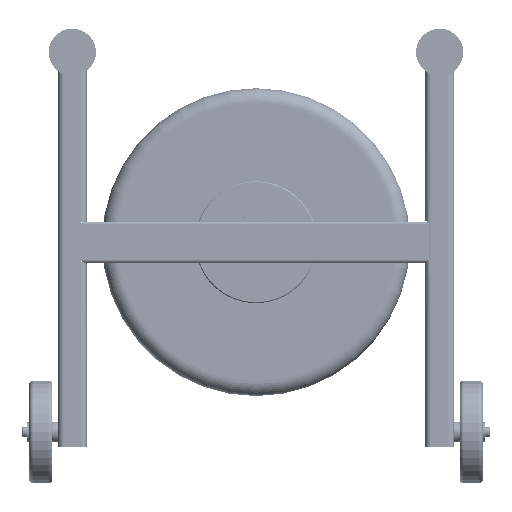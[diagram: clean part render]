
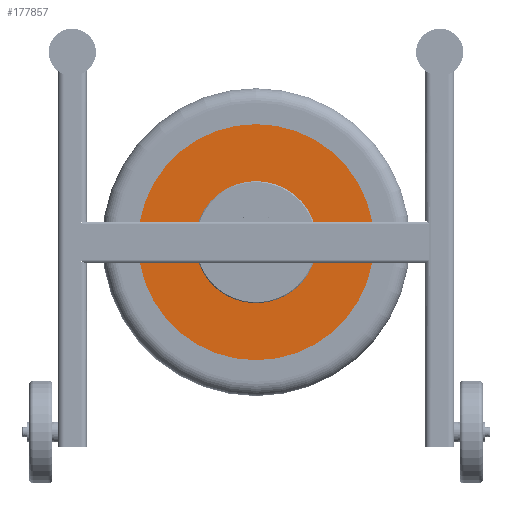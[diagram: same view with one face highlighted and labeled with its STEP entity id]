
A CAD part, front view. The second image highlights one B-rep face of the part: STEP entity #177857.
In plain terms, the highlighted planar face has unit normal (0, -1, 0) as drawn and (0, 1, 0) by its records, which use the part's own axes.
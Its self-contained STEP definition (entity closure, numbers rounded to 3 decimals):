
#177514=CARTESIAN_POINT('',(0.,21.,0.));
#177515=DIRECTION('',(0.,1.,0.));
#177516=DIRECTION('',(1.,0.,0.));
#177517=AXIS2_PLACEMENT_3D('',#177514,#177515,#177516);
#177519=CARTESIAN_POINT('',(0.,21.,0.));
#177520=DIRECTION('',(0.,-1.,0.));
#177521=DIRECTION('',(1.,0.,0.));
#177522=AXIS2_PLACEMENT_3D('',#177519,#177520,#177521);
#177528=CARTESIAN_POINT('',(0.,21.,0.));
#177529=DIRECTION('',(0.,-1.,0.));
#177530=DIRECTION('',(1.,0.,0.));
#177531=AXIS2_PLACEMENT_3D('',#177528,#177529,#177530);
#177537=CARTESIAN_POINT('',(0.,21.,0.));
#177538=DIRECTION('',(0.,1.,0.));
#177539=DIRECTION('',(1.,0.,0.));
#177540=AXIS2_PLACEMENT_3D('',#177537,#177538,#177539);
#177602=CARTESIAN_POINT('',(38.,21.,0.));
#177603=CARTESIAN_POINT('',(-38.,21.,0.));
#177604=VERTEX_POINT('',#177602);
#177605=VERTEX_POINT('',#177603);
#177606=CARTESIAN_POINT('',(115.,21.,0.));
#177607=CARTESIAN_POINT('',(-115.,21.,0.));
#177608=VERTEX_POINT('',#177606);
#177609=VERTEX_POINT('',#177607);
#177842=CARTESIAN_POINT('',(0.,21.,0.));
#177843=DIRECTION('',(0.,1.,0.));
#177844=DIRECTION('',(1.,0.,0.));
#177845=AXIS2_PLACEMENT_3D('',#177842,#177843,#177844);
#177846=PLANE('',#177845);
#177848=ORIENTED_EDGE('',*,*,#177847,.T.);
#177850=ORIENTED_EDGE('',*,*,#177849,.F.);
#177851=EDGE_LOOP('',(#177848,#177850));
#177852=FACE_OUTER_BOUND('',#177851,.F.);
#177853=ORIENTED_EDGE('',*,*,#177822,.T.);
#177854=ORIENTED_EDGE('',*,*,#177836,.F.);
#177855=EDGE_LOOP('',(#177853,#177854));
#177856=FACE_BOUND('',#177855,.F.);
#177857=ADVANCED_FACE('',(#177852,#177856),#177846,.T.);
#177518=CIRCLE('',#177517,38.);
#177523=CIRCLE('',#177522,38.);
#177532=CIRCLE('',#177531,115.);
#177541=CIRCLE('',#177540,115.);
#177822=EDGE_CURVE('',#177604,#177605,#177518,.T.);
#177836=EDGE_CURVE('',#177604,#177605,#177523,.T.);
#177847=EDGE_CURVE('',#177608,#177609,#177532,.T.);
#177849=EDGE_CURVE('',#177608,#177609,#177541,.T.);
